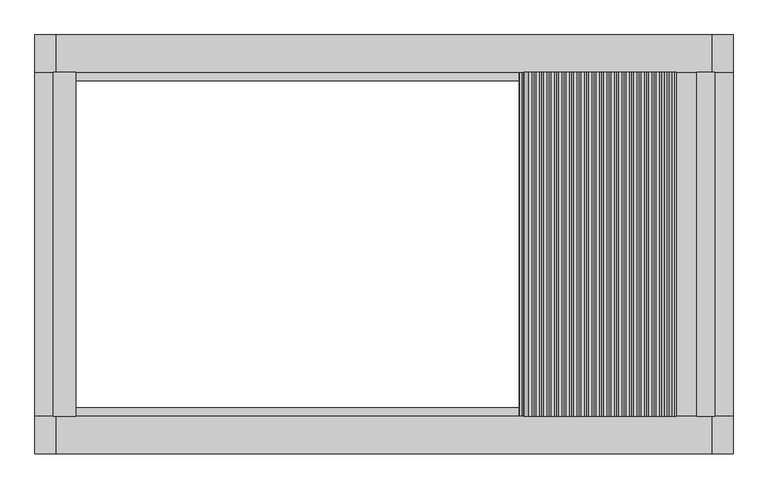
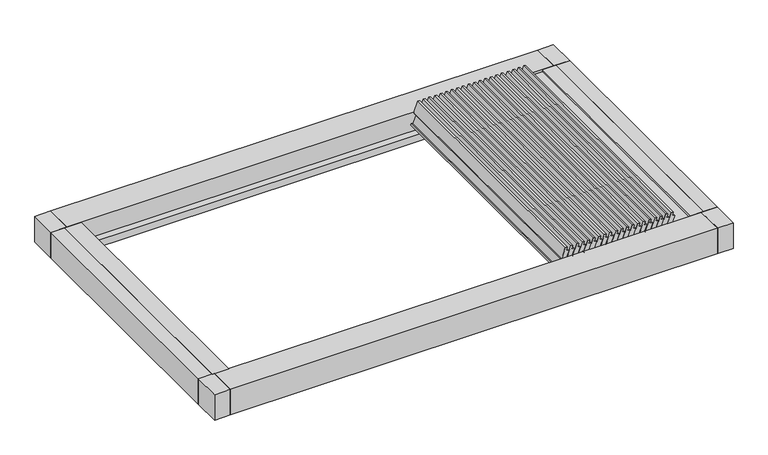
"""IFC4 building model written with IfcOpenShell, lengths in millimetres: proxy geometry, Renson_Aero_Skye_Patio covers : Aero Skye - Single."""

from ifc_helpers import new_model, si_unit, point, frame, frame_2d, origin, place, context, project, spatial, polyline, circle_curve, trimmed, segment, composite_curve, outline, extrude, source, transform, mapped, element, save


def generic_models_7025a045(model_context):
    return source(origin(), model_context, "Body", "SweptSolid", [
        extrude(outline(composite_curve([segment(polyline([(57.4209524, 2039.4415401), (70.2426236, 2014.8113388), (97.4129595, 2024.5664862), (101.6973385, 2005.2409012), (-1.9486679, 1968.0281825)]), True, "CONTINUOUS"), segment(trimmed(circle_curve(frame_2d((-7.0174187, 1982.1458228)), 15.0), [point((-1.9486679, 1968.0281825))], [point((-19.6682904, 1974.0863286))], False, "CARTESIAN"), True, "CONTINUOUS"), segment(polyline([(-19.6682904, 1974.0863286), (-30.1597171, 1990.5545698), (-111.2170048, 1956.9795419), (-107.4634458, 1940.0483314), (-121.8583414, 1934.8800358), (-134.8343799, 1959.806774), (57.4209524, 2039.4415401)]), True, "CONTINUOUS")], self_intersect=False)), frame((0.0, -1232.0, 0.0), z_axis=(0.0, 1.0, 0.0), x_axis=(0.0, 0.0, 1.0)), (0.0, 0.0, 1.0), 2464.0),
        extrude(outline(composite_curve([segment(polyline([(57.4209524, 1985.6824413), (70.2426236, 1961.05224), (97.4129595, 1970.8073874), (101.6973385, 1951.4818025), (-1.9486679, 1914.2690838)]), True, "CONTINUOUS"), segment(trimmed(circle_curve(frame_2d((-7.0174187, 1928.386724)), 15.0), [point((-1.9486679, 1914.2690838))], [point((-19.6682904, 1920.3272299))], False, "CARTESIAN"), True, "CONTINUOUS"), segment(polyline([(-19.6682904, 1920.3272299), (-30.1597171, 1936.7954711), (-111.2170048, 1903.2204431), (-107.4634458, 1886.2892327), (-121.8583414, 1881.1209371), (-134.8343799, 1906.0476752), (57.4209524, 1985.6824413)]), True, "CONTINUOUS")], self_intersect=False)), frame((0.0, -1232.0, 0.0), z_axis=(0.0, 1.0, 0.0), x_axis=(0.0, 0.0, 1.0)), (0.0, 0.0, 1.0), 2464.0),
        extrude(outline(composite_curve([segment(polyline([(57.4209524, 1931.9233425), (70.2426236, 1907.2931413), (97.4129595, 1917.0482886), (101.6973385, 1897.7227037), (-1.9486679, 1860.509985)]), True, "CONTINUOUS"), segment(trimmed(circle_curve(frame_2d((-7.0174187, 1874.6276252)), 15.0), [point((-1.9486679, 1860.509985))], [point((-19.6682904, 1866.5681311))], False, "CARTESIAN"), True, "CONTINUOUS"), segment(polyline([(-19.6682904, 1866.5681311), (-30.1597171, 1883.0363723), (-111.2170048, 1849.4613444), (-107.4634458, 1832.5301339), (-121.8583414, 1827.3618383), (-134.8343799, 1852.2885764), (57.4209524, 1931.9233425)]), True, "CONTINUOUS")], self_intersect=False)), frame((0.0, -1232.0, 0.0), z_axis=(0.0, 1.0, 0.0), x_axis=(0.0, 0.0, 1.0)), (0.0, 0.0, 1.0), 2464.0),
        extrude(outline(composite_curve([segment(polyline([(57.4209524, 1878.1642438), (70.2426236, 1853.5340425), (97.4129595, 1863.2891899), (101.6973385, 1843.9636049), (-1.9486679, 1806.7508862)]), True, "CONTINUOUS"), segment(trimmed(circle_curve(frame_2d((-7.0174187, 1820.8685265)), 15.0), [point((-1.9486679, 1806.7508862))], [point((-19.6682904, 1812.8090323))], False, "CARTESIAN"), True, "CONTINUOUS"), segment(polyline([(-19.6682904, 1812.8090323), (-30.1597171, 1829.2772735), (-111.2170048, 1795.7022456), (-107.4634458, 1778.7710351), (-121.8583414, 1773.6027395), (-134.8343799, 1798.5294777), (57.4209524, 1878.1642438)]), True, "CONTINUOUS")], self_intersect=False)), frame((0.0, -1232.0, 0.0), z_axis=(0.0, 1.0, 0.0), x_axis=(0.0, 0.0, 1.0)), (0.0, 0.0, 1.0), 2464.0),
        extrude(outline(composite_curve([segment(polyline([(57.4209524, 1824.405145), (70.2426236, 1799.7749437), (97.4129595, 1809.5300911), (101.6973385, 1790.2045062), (-1.9486679, 1752.9917875)]), True, "CONTINUOUS"), segment(trimmed(circle_curve(frame_2d((-7.0174187, 1767.1094277)), 15.0), [point((-1.9486679, 1752.9917875))], [point((-19.6682904, 1759.0499336))], False, "CARTESIAN"), True, "CONTINUOUS"), segment(polyline([(-19.6682904, 1759.0499336), (-30.1597171, 1775.5181748), (-111.2170048, 1741.9431469), (-107.4634458, 1725.0119364), (-121.8583414, 1719.8436408), (-134.8343799, 1744.7703789), (57.4209524, 1824.405145)]), True, "CONTINUOUS")], self_intersect=False)), frame((0.0, -1232.0, 0.0), z_axis=(0.0, 1.0, 0.0), x_axis=(0.0, 0.0, 1.0)), (0.0, 0.0, 1.0), 2464.0),
        extrude(outline(composite_curve([segment(polyline([(57.4209524, 1770.6460462), (70.2426236, 1746.015845), (97.4129595, 1755.7709923), (101.6973385, 1736.4454074), (-1.9486679, 1699.2326887)]), True, "CONTINUOUS"), segment(trimmed(circle_curve(frame_2d((-7.0174187, 1713.3503289)), 15.0), [point((-1.9486679, 1699.2326887))], [point((-19.6682904, 1705.2908348))], False, "CARTESIAN"), True, "CONTINUOUS"), segment(polyline([(-19.6682904, 1705.2908348), (-30.1597171, 1721.759076), (-111.2170048, 1688.1840481), (-107.4634458, 1671.2528376), (-121.8583414, 1666.084542), (-134.8343799, 1691.0112802), (57.4209524, 1770.6460462)]), True, "CONTINUOUS")], self_intersect=False)), frame((0.0, -1232.0, 0.0), z_axis=(0.0, 1.0, 0.0), x_axis=(0.0, 0.0, 1.0)), (0.0, 0.0, 1.0), 2464.0),
        extrude(outline(composite_curve([segment(polyline([(57.4209524, 1716.8869475), (70.2426236, 1692.2567462), (97.4129595, 1702.0118936), (101.6973385, 1682.6863087), (-1.9486679, 1645.4735899)]), True, "CONTINUOUS"), segment(trimmed(circle_curve(frame_2d((-7.0174187, 1659.5912302)), 15.0), [point((-1.9486679, 1645.4735899))], [point((-19.6682904, 1651.531736))], False, "CARTESIAN"), True, "CONTINUOUS"), segment(polyline([(-19.6682904, 1651.531736), (-30.1597171, 1667.9999772), (-111.2170048, 1634.4249493), (-107.4634458, 1617.4937388), (-121.8583414, 1612.3254432), (-134.8343799, 1637.2521814), (57.4209524, 1716.8869475)]), True, "CONTINUOUS")], self_intersect=False)), frame((0.0, -1232.0, 0.0), z_axis=(0.0, 1.0, 0.0), x_axis=(0.0, 0.0, 1.0)), (0.0, 0.0, 1.0), 2464.0),
        extrude(outline(composite_curve([segment(polyline([(57.4209524, 1663.1278487), (70.2426236, 1638.4976475), (97.4129595, 1648.2527948), (101.6973385, 1628.9272099), (-1.9486679, 1591.7144912)]), True, "CONTINUOUS"), segment(trimmed(circle_curve(frame_2d((-7.0174187, 1605.8321314)), 15.0), [point((-1.9486679, 1591.7144912))], [point((-19.6682904, 1597.7726373))], False, "CARTESIAN"), True, "CONTINUOUS"), segment(polyline([(-19.6682904, 1597.7726373), (-30.1597171, 1614.2408785), (-111.2170048, 1580.6658506), (-107.4634458, 1563.7346401), (-121.8583414, 1558.5663445), (-134.8343799, 1583.4930826), (57.4209524, 1663.1278487)]), True, "CONTINUOUS")], self_intersect=False)), frame((0.0, -1232.0, 0.0), z_axis=(0.0, 1.0, 0.0), x_axis=(0.0, 0.0, 1.0)), (0.0, 0.0, 1.0), 2464.0),
        extrude(outline(composite_curve([segment(polyline([(57.4209524, 1609.3687499), (70.2426236, 1584.7385487), (97.4129595, 1594.4936961), (101.6973385, 1575.1681111), (-1.9486679, 1537.9553924)]), True, "CONTINUOUS"), segment(trimmed(circle_curve(frame_2d((-7.0174187, 1552.0730326)), 15.0), [point((-1.9486679, 1537.9553924))], [point((-19.6682904, 1544.0135385))], False, "CARTESIAN"), True, "CONTINUOUS"), segment(polyline([(-19.6682904, 1544.0135385), (-30.1597171, 1560.4817797), (-111.2170048, 1526.9067518), (-107.4634458, 1509.9755413), (-121.8583414, 1504.8072457), (-134.8343799, 1529.7339839), (57.4209524, 1609.3687499)]), True, "CONTINUOUS")], self_intersect=False)), frame((0.0, -1232.0, 0.0), z_axis=(0.0, 1.0, 0.0), x_axis=(0.0, 0.0, 1.0)), (0.0, 0.0, 1.0), 2464.0),
        extrude(outline(composite_curve([segment(polyline([(57.4209524, 1555.6096512), (70.2426236, 1530.9794499), (97.4129595, 1540.7345973), (101.6973385, 1521.4090124), (-1.9486679, 1484.1962937)]), True, "CONTINUOUS"), segment(trimmed(circle_curve(frame_2d((-7.0174187, 1498.3139339)), 15.0), [point((-1.9486679, 1484.1962937))], [point((-19.6682904, 1490.2544398))], False, "CARTESIAN"), True, "CONTINUOUS"), segment(polyline([(-19.6682904, 1490.2544398), (-30.1597171, 1506.722681), (-111.2170048, 1473.147653), (-107.4634458, 1456.2164425), (-121.8583414, 1451.0481469), (-134.8343799, 1475.9748851), (57.4209524, 1555.6096512)]), True, "CONTINUOUS")], self_intersect=False)), frame((0.0, -1232.0, 0.0), z_axis=(0.0, 1.0, 0.0), x_axis=(0.0, 0.0, 1.0)), (0.0, 0.0, 1.0), 2464.0),
        extrude(outline(composite_curve([segment(polyline([(57.4209524, 1501.8505524), (70.2426236, 1477.2203512), (97.4129595, 1486.9754985), (101.6973385, 1467.6499136), (-1.9486679, 1430.4371949)]), True, "CONTINUOUS"), segment(trimmed(circle_curve(frame_2d((-7.0174187, 1444.5548351)), 15.0), [point((-1.9486679, 1430.4371949))], [point((-19.6682904, 1436.495341))], False, "CARTESIAN"), True, "CONTINUOUS"), segment(polyline([(-19.6682904, 1436.495341), (-30.1597171, 1452.9635822), (-111.2170048, 1419.3885543), (-107.4634458, 1402.4573438), (-121.8583414, 1397.2890482), (-134.8343799, 1422.2157863), (57.4209524, 1501.8505524)]), True, "CONTINUOUS")], self_intersect=False)), frame((0.0, -1232.0, 0.0), z_axis=(0.0, 1.0, 0.0), x_axis=(0.0, 0.0, 1.0)), (0.0, 0.0, 1.0), 2464.0),
        extrude(outline(composite_curve([segment(polyline([(57.4209524, 1448.0914537), (70.2426236, 1423.4612524), (97.4129595, 1433.2163998), (101.6973385, 1413.8908148), (-1.9486679, 1376.6780961)]), True, "CONTINUOUS"), segment(trimmed(circle_curve(frame_2d((-7.0174187, 1390.7957364)), 15.0), [point((-1.9486679, 1376.6780961))], [point((-19.6682904, 1382.7362422))], False, "CARTESIAN"), True, "CONTINUOUS"), segment(polyline([(-19.6682904, 1382.7362422), (-30.1597171, 1399.2044834), (-111.2170048, 1365.6294555), (-107.4634458, 1348.698245), (-121.8583414, 1343.5299494), (-134.8343799, 1368.4566876), (57.4209524, 1448.0914537)]), True, "CONTINUOUS")], self_intersect=False)), frame((0.0, -1232.0, 0.0), z_axis=(0.0, 1.0, 0.0), x_axis=(0.0, 0.0, 1.0)), (0.0, 0.0, 1.0), 2464.0),
        extrude(outline(composite_curve([segment(polyline([(57.4209524, 1394.3323549), (70.2426236, 1369.7021536), (97.4129595, 1379.457301), (101.6973385, 1360.1317161), (-1.9486679, 1322.9189974)]), True, "CONTINUOUS"), segment(trimmed(circle_curve(frame_2d((-7.0174187, 1337.0366376)), 15.0), [point((-1.9486679, 1322.9189974))], [point((-19.6682904, 1328.9771435))], False, "CARTESIAN"), True, "CONTINUOUS"), segment(polyline([(-19.6682904, 1328.9771435), (-30.1597171, 1345.4453847), (-111.2170048, 1311.8703568), (-107.4634458, 1294.9391463), (-121.8583414, 1289.7708507), (-134.8343799, 1314.6975888), (57.4209524, 1394.3323549)]), True, "CONTINUOUS")], self_intersect=False)), frame((0.0, -1232.0, 0.0), z_axis=(0.0, 1.0, 0.0), x_axis=(0.0, 0.0, 1.0)), (0.0, 0.0, 1.0), 2464.0),
        extrude(outline(composite_curve([segment(polyline([(57.4209524, 1340.5732561), (70.2426236, 1315.9430549), (97.4129595, 1325.6982022), (101.6973385, 1306.3726173), (-1.9486679, 1269.1598986)]), True, "CONTINUOUS"), segment(trimmed(circle_curve(frame_2d((-7.0174187, 1283.2775388)), 15.0), [point((-1.9486679, 1269.1598986))], [point((-19.6682904, 1275.2180447))], False, "CARTESIAN"), True, "CONTINUOUS"), segment(polyline([(-19.6682904, 1275.2180447), (-30.1597171, 1291.6862859), (-111.2170048, 1258.111258), (-107.4634458, 1241.1800475), (-121.8583414, 1236.0117519), (-134.8343799, 1260.93849), (57.4209524, 1340.5732561)]), True, "CONTINUOUS")], self_intersect=False)), frame((0.0, -1232.0, 0.0), z_axis=(0.0, 1.0, 0.0), x_axis=(0.0, 0.0, 1.0)), (0.0, 0.0, 1.0), 2464.0),
        extrude(outline(composite_curve([segment(polyline([(57.4209524, 1286.8141574), (70.2426236, 1262.1839561), (97.4129595, 1271.9391035), (101.6973385, 1252.6135185), (-1.9486679, 1215.4007998)]), True, "CONTINUOUS"), segment(trimmed(circle_curve(frame_2d((-7.0174187, 1229.5184401)), 15.0), [point((-1.9486679, 1215.4007998))], [point((-19.6682904, 1221.4589459))], False, "CARTESIAN"), True, "CONTINUOUS"), segment(polyline([(-19.6682904, 1221.4589459), (-30.1597171, 1237.9271871), (-111.2170048, 1204.3521592), (-107.4634458, 1187.4209487), (-121.8583414, 1182.2526531), (-134.8343799, 1207.1793913), (57.4209524, 1286.8141574)]), True, "CONTINUOUS")], self_intersect=False)), frame((0.0, -1232.0, 0.0), z_axis=(0.0, 1.0, 0.0), x_axis=(0.0, 0.0, 1.0)), (0.0, 0.0, 1.0), 2464.0),
        extrude(outline(composite_curve([segment(polyline([(57.4209524, 1233.0550586), (70.2426236, 1208.4248573), (97.4129595, 1218.1800047), (101.6973385, 1198.8544198), (-1.9486679, 1161.6417011)]), True, "CONTINUOUS"), segment(trimmed(circle_curve(frame_2d((-7.0174187, 1175.7593413)), 15.0), [point((-1.9486679, 1161.6417011))], [point((-19.6682904, 1167.6998472))], False, "CARTESIAN"), True, "CONTINUOUS"), segment(polyline([(-19.6682904, 1167.6998472), (-30.1597171, 1184.1680884), (-111.2170048, 1150.5930605), (-107.4634458, 1133.66185), (-121.8583414, 1128.4935544), (-134.8343799, 1153.4202925), (57.4209524, 1233.0550586)]), True, "CONTINUOUS")], self_intersect=False)), frame((0.0, -1232.0, 0.0), z_axis=(0.0, 1.0, 0.0), x_axis=(0.0, 0.0, 1.0)), (0.0, 0.0, 1.0), 2464.0),
        extrude(outline(composite_curve([segment(polyline([(57.4209524, 1179.2959598), (70.2426236, 1154.6657586), (97.4129595, 1164.4209059), (101.6973385, 1145.095321), (-1.9486679, 1107.8826023)]), True, "CONTINUOUS"), segment(trimmed(circle_curve(frame_2d((-7.0174187, 1122.0002425)), 15.0), [point((-1.9486679, 1107.8826023))], [point((-19.6682904, 1113.9407484))], False, "CARTESIAN"), True, "CONTINUOUS"), segment(polyline([(-19.6682904, 1113.9407484), (-30.1597171, 1130.4089896), (-111.2170048, 1096.8339617), (-107.4634458, 1079.9027512), (-121.8583414, 1074.7344556), (-134.8343799, 1099.6611938), (57.4209524, 1179.2959598)]), True, "CONTINUOUS")], self_intersect=False)), frame((0.0, -1232.0, 0.0), z_axis=(0.0, 1.0, 0.0), x_axis=(0.0, 0.0, 1.0)), (0.0, 0.0, 1.0), 2464.0),
        extrude(outline(composite_curve([segment(polyline([(57.4209524, 1125.5368611), (70.2426236, 1100.9066598), (97.4129595, 1110.6618072), (101.6973385, 1091.3362223), (-1.9486679, 1054.1235035)]), True, "CONTINUOUS"), segment(trimmed(circle_curve(frame_2d((-7.0174187, 1068.2411438)), 15.0), [point((-1.9486679, 1054.1235035))], [point((-19.6682904, 1060.1816497))], False, "CARTESIAN"), True, "CONTINUOUS"), segment(polyline([(-19.6682904, 1060.1816497), (-30.1597171, 1076.6498908), (-111.2170048, 1043.0748629), (-107.4634458, 1026.1436524), (-121.8583414, 1020.9753568), (-134.8343799, 1045.902095), (57.4209524, 1125.5368611)]), True, "CONTINUOUS")], self_intersect=False)), frame((0.0, -1232.0, 0.0), z_axis=(0.0, 1.0, 0.0), x_axis=(0.0, 0.0, 1.0)), (0.0, 0.0, 1.0), 2464.0),
        extrude(outline(composite_curve([segment(polyline([(57.4209524, 2093.2006388), (70.2426236, 2068.5704376), (97.4129595, 2078.3255849), (101.6973385, 2059.0), (-1.9486679, 2021.7872813)]), True, "CONTINUOUS"), segment(trimmed(circle_curve(frame_2d((-7.0174187, 2035.9049215)), 15.0), [point((-1.9486679, 2021.7872813))], [point((-19.6682904, 2027.8454274))], False, "CARTESIAN"), True, "CONTINUOUS"), segment(polyline([(-19.6682904, 2027.8454274), (-30.1597171, 2044.3136686), (-111.2170048, 2010.7386407), (-107.4634458, 1993.8074302), (-121.8583414, 1988.6391346), (-134.8343799, 2013.5658727), (57.4209524, 2093.2006388)]), True, "CONTINUOUS")], self_intersect=False)), frame((0.0, -1232.0, 0.0), z_axis=(0.0, 1.0, 0.0), x_axis=(0.0, 0.0, 1.0)), (0.0, 0.0, 1.0), 2464.0),
        extrude(outline(composite_curve([segment(polyline([(57.4209524, 1071.7777623), (70.2426236, 1047.1475611), (97.4129595, 1056.9027084), (101.6973385, 1037.5771235), (-1.9486679, 1000.3644048)]), True, "CONTINUOUS"), segment(trimmed(circle_curve(frame_2d((-7.0174187, 1014.482045)), 15.0), [point((-1.9486679, 1000.3644048))], [point((-19.6682904, 1006.4225509))], False, "CARTESIAN"), True, "CONTINUOUS"), segment(polyline([(-19.6682904, 1006.4225509), (-30.1597171, 1022.8907921), (-111.2170048, 989.3157642), (-107.4634458, 972.3845537), (-121.8583414, 967.2162581), (-134.8343799, 992.1429962), (57.4209524, 1071.7777623)]), True, "CONTINUOUS")], self_intersect=False)), frame((0.0, -1232.0, 0.0), z_axis=(0.0, 1.0, 0.0), x_axis=(0.0, 0.0, 1.0)), (0.0, 0.0, 1.0), 2464.0),
        extrude(outline(polyline([(-63.35, 2369.0), (0.0, 2369.0), (0.0, 2239.5), (-20.0, 2239.5), (-20.0, 2059.0), (-44.0, 2059.0), (-44.0, 2209.0), (-63.35, 2209.0), (-63.35, 2369.0)])), frame((0.0, -1232.0, 0.0), z_axis=(0.0, 1.0, 0.0), x_axis=(0.0, 0.0, 1.0)), (0.0, 0.0, 1.0), 2464.0),
        extrude(outline(polyline([(0.0, -2209.0), (0.0, -2369.0), (-44.0, -2369.0), (-44.0, -2236.3193336), (-10.8283397, -2233.4171894), (-9.655498, -2209.0), (0.0, -2209.0)])), frame((0.0, -1232.0, 0.0), z_axis=(0.0, 1.0, 0.0), x_axis=(0.0, 0.0, 1.0)), (0.0, 0.0, 1.0), 2464.0),
        extrude(outline(polyline([(2500.0, -1500.0), (2350.0, -1500.0), (2350.0, -1232.0), (2500.0, -1232.0), (2500.0, -1500.0)])), frame((0.0, 0.0, -260.0), z_axis=(0.0, 0.0, 1.0), x_axis=(1.0, 0.0, 0.0)), (0.0, 0.0, 1.0), 260.0),
        extrude(outline(polyline([(-2500.0, -1500.0), (-2500.0, -1232.0), (-2350.0, -1232.0), (-2350.0, -1500.0), (-2500.0, -1500.0)])), frame((0.0, 0.0, -260.0), z_axis=(0.0, 0.0, 1.0), x_axis=(1.0, 0.0, 0.0)), (0.0, 0.0, 1.0), 260.0),
        extrude(outline(polyline([(-2350.0, 1232.0), (-2500.0, 1232.0), (-2500.0, 1500.0), (-2350.0, 1500.0), (-2350.0, 1232.0)])), frame((0.0, 0.0, -260.0), z_axis=(0.0, 0.0, 1.0), x_axis=(1.0, 0.0, 0.0)), (0.0, 0.0, 1.0), 260.0),
        extrude(outline(polyline([(2500.0, 1500.0), (2500.0, 1232.0), (2350.0, 1232.0), (2350.0, 1500.0), (2500.0, 1500.0)])), frame((0.0, 0.0, -260.0), z_axis=(0.0, 0.0, 1.0), x_axis=(1.0, 0.0, 0.0)), (0.0, 0.0, 1.0), 260.0),
        extrude(outline(polyline([(-1232.0, -188.0), (-1170.0, -188.0), (-1170.0, -260.0), (-1500.0, -260.0), (-1500.0, 0.0), (-1232.0, 0.0), (-1232.0, -188.0)])), frame((-2350.0, 0.0, 0.0), z_axis=(1.0, 0.0, 0.0), x_axis=(0.0, 1.0, 0.0)), (0.0, 0.0, 1.0), 4700.0),
        extrude(outline(polyline([(1232.0, -188.0), (1232.0, 0.0), (1500.0, 0.0), (1500.0, -260.0), (1170.0, -260.0), (1170.0, -188.0), (1232.0, -188.0)])), frame((-2350.0, 0.0, 0.0), z_axis=(1.0, 0.0, 0.0), x_axis=(0.0, 1.0, 0.0)), (0.0, 0.0, 1.0), 4700.0),
        extrude(outline(polyline([(-64.0, 2369.0), (-64.0, 2350.0), (-260.0, 2350.0), (-260.0, 2500.0), (0.0, 2500.0), (0.0, 2369.0), (-64.0, 2369.0)])), frame((0.0, -1232.0, 0.0), z_axis=(0.0, 1.0, 0.0), x_axis=(0.0, 0.0, 1.0)), (0.0, 0.0, 1.0), 2464.0),
        extrude(outline(polyline([(-64.0, -2369.0), (0.0, -2369.0), (0.0, -2500.0), (-260.0, -2500.0), (-260.0, -2350.0), (-64.0, -2350.0), (-64.0, -2369.0)])), frame((0.0, -1232.0, 0.0), z_axis=(0.0, 1.0, 0.0), x_axis=(0.0, 0.0, 1.0)), (0.0, 0.0, 1.0), 2464.0),
    ])


if __name__ == "__main__":
    model = new_model("IFC4")
    model_context = context("Model", 3, world=origin())
    ifc_project = project(units=[si_unit("LENGTHUNIT", "METRE", prefix="MILLI")], contexts=[model_context])
    site = spatial("IfcSite", under=ifc_project)
    building = spatial("IfcBuilding", under=site)
    placement = place(None, origin())
    generic_models_shape = generic_models_7025a045(model_context)
    element("IfcBuildingElementProxy", 1, Name="Renson_Aero_Skye_Patio covers : Aero Skye - Single", ObjectType="Renson_Aero_Skye_Patio covers : Aero Skye - Single", at=placement, inside=building, context=model_context, shape_type="MappedRepresentation", body=[
        mapped(generic_models_shape, transform((0.0, 0.0, 0.0), x_axis=(1.0, 0.0, 0.0), y_axis=(0.0, 1.0, 0.0), z_axis=(0.0, 0.0, 1.0))),
    ])
    save(model, "model.ifc")
